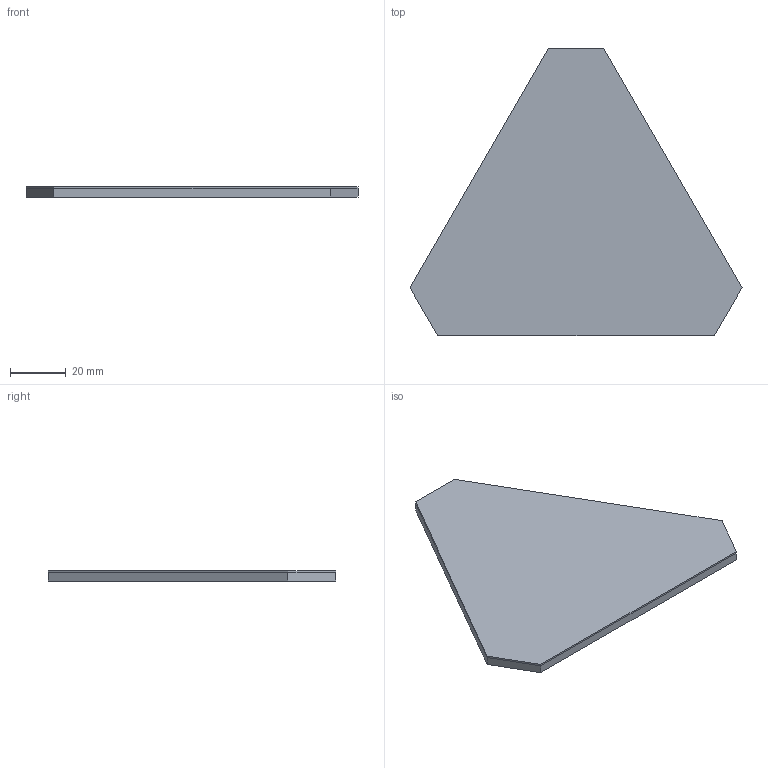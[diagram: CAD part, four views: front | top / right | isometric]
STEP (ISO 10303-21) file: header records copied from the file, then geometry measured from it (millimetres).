
FILE_DESCRIPTION(/* description */ (''),/* implementation_level */ '2;1');
FILE_NAME(/* name */ 'led-tile-lid',/* time_stamp */ '2022-10-23T21:46:01+02:00',/* author */ (''),/* organization */ (''),/* preprocessor_version */ 'ST-DEVELOPER v10',/* originating_system */ '',/* authorisation */ '');
FILE_SCHEMA (('CONFIG_CONTROL_DESIGN'));
Length unit declared in the file: millimetre
Products named in the file (1): 1
Bounding box: 118.77 x 102.86 x 3.6 mm (x, y, z)
Volume: 5649.4 mm3; surface area: 17959.2 mm2
Topology: 1 solids, 1 shells, 31 faces, 74 edges, 46 vertices
Faces by surface type: plane 31
Entity records: 889 total; most frequent: CARTESIAN_POINT 267, ORIENTED_EDGE 148, EDGE_CURVE 74, B_SPLINE_CURVE_WITH_KNOTS 74, VERTEX_POINT 46, DIRECTION 35, AXIS2_PLACEMENT_3D 33, EDGE_LOOP 32
